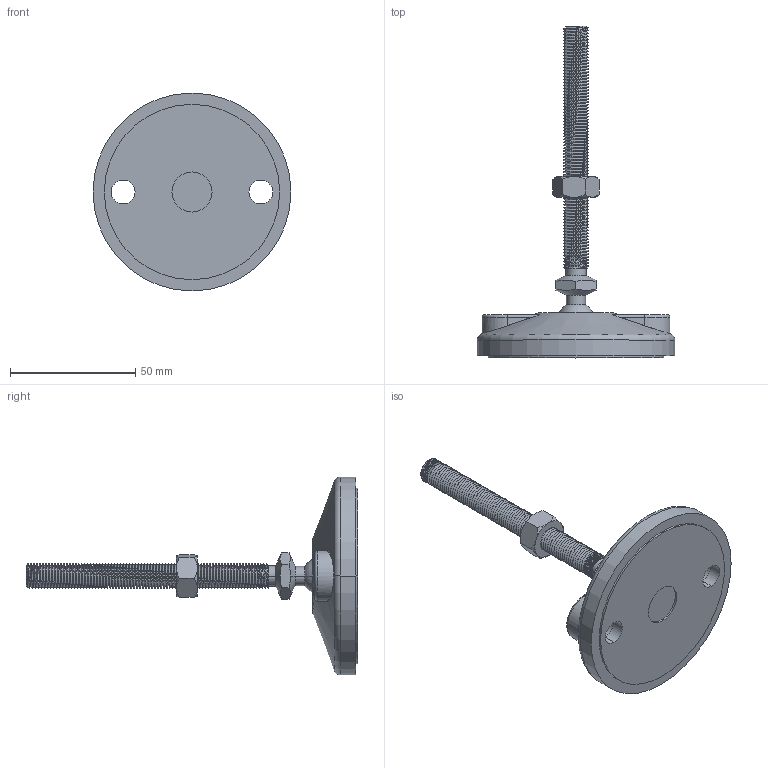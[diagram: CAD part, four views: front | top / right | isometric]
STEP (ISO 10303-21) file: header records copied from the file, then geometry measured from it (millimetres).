
FILE_DESCRIPTION (( 'STEP AP214' ), '1' );
FILE_NAME ('6.04.SPAF80.STEP', '2015-06-06T05:53:06', ( '' ), ( '' ), 'SwSTEP 2.0', 'SolidWorks 2015', '' );
FILE_SCHEMA (( 'AUTOMOTIVE_DESIGN' ));
Length unit declared in the file: millimetre
Products named in the file (1): 6.04.SPAF80
Bounding box: 79 x 132.5 x 79 mm (x, y, z)
Volume: 60507.1 mm3; surface area: 33856.5 mm2
Topology: 4 solids, 4 shells, 318 faces, 882 edges, 574 vertices
Faces by surface type: cylinder 203, plane 48, cone 27, torus 26, bspline 12, sphere 2
Entity records: 20930 total; most frequent: CARTESIAN_POINT 10333, ORIENTED_EDGE 1754, DIRECTION 1227, EDGE_CURVE 877, VERTEX_POINT 571, AXIS2_PLACEMENT_3D 477, EDGE_LOOP 334, UNCERTAINTY_MEASURE_WITH_UNIT 324
